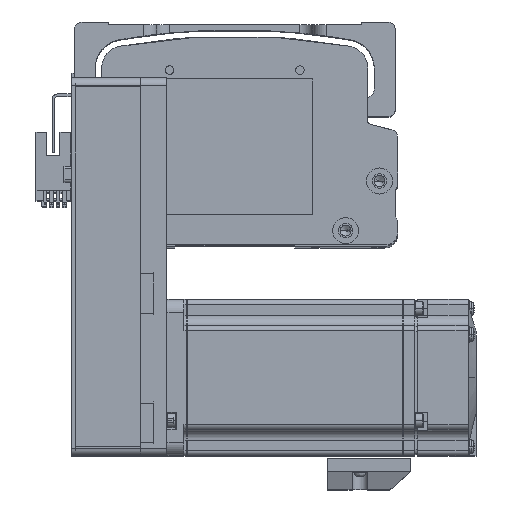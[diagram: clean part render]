
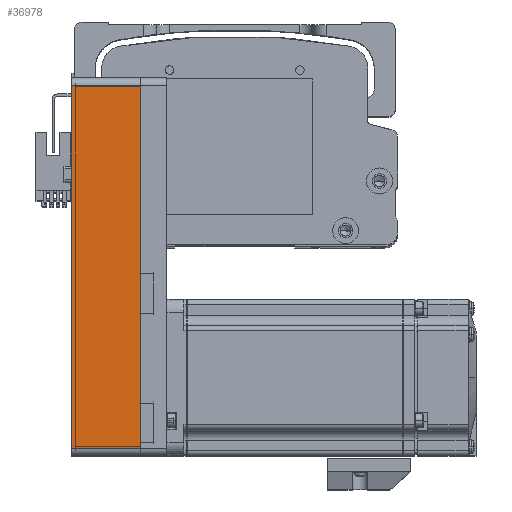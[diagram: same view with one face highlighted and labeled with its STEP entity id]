
A CAD part, top view. The second image highlights one B-rep face of the part: STEP entity #36978.
In plain terms, the highlighted planar face has unit normal (0, 0, 1) as drawn and (0, 1, 0) by its records, which use the part's own axes.
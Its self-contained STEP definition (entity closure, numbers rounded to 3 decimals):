
#1737 = CARTESIAN_POINT ( 'NONE',  ( 72.5, 30., 26.5 ) ) ;
#2294 = CARTESIAN_POINT ( 'NONE',  ( 69.5, 30., 0. ) ) ;
#8041 = VECTOR ( 'NONE', #57532, 1000. ) ;
#8072 = LINE ( 'NONE', #46622, #66247 ) ;
#8499 = VECTOR ( 'NONE', #67549, 1000. ) ;
#9425 = VERTEX_POINT ( 'NONE', #2294 ) ;
#10012 = LINE ( 'NONE', #19428, #57539 ) ;
#10837 = EDGE_CURVE ( 'NONE', #35597, #58328, #8072, .T. ) ;
#13459 = CARTESIAN_POINT ( 'NONE',  ( -69.5, 30., 0. ) ) ;
#15491 = DIRECTION ( 'NONE',  ( 0., 0., 1. ) ) ;
#15525 = VERTEX_POINT ( 'NONE', #24283 ) ;
#17304 = AXIS2_PLACEMENT_3D ( 'NONE', #59123, #21979, #65362 ) ;
#19428 = CARTESIAN_POINT ( 'NONE',  ( 69.5, 30., 26.5 ) ) ;
#20393 = EDGE_CURVE ( 'NONE', #15525, #58328, #57490, .T. ) ;
#21979 = DIRECTION ( 'NONE',  ( 0., -1., 0. ) ) ;
#24283 = CARTESIAN_POINT ( 'NONE',  ( 69.5, 30., 26.5 ) ) ;
#27771 = ORIENTED_EDGE ( 'NONE', *, *, #20393, .F. ) ;
#28488 = FACE_OUTER_BOUND ( 'NONE', #30672, .T. ) ;
#30672 = EDGE_LOOP ( 'NONE', ( #41353, #62289, #27771, #37447 ) ) ;
#34222 = PLANE ( 'NONE',  #17304 ) ;
#35597 = VERTEX_POINT ( 'NONE', #13459 ) ;
#36978 = ADVANCED_FACE ( 'NONE', ( #28488 ), #34222, .F. ) ;
#37447 = ORIENTED_EDGE ( 'NONE', *, *, #47105, .T. ) ;
#41353 = ORIENTED_EDGE ( 'NONE', *, *, #68784, .T. ) ;
#44380 = DIRECTION ( 'NONE',  ( 0., 0., -1. ) ) ;
#46622 = CARTESIAN_POINT ( 'NONE',  ( -69.5, 30., 26.5 ) ) ;
#47105 = EDGE_CURVE ( 'NONE', #15525, #9425, #10012, .T. ) ;
#57490 = LINE ( 'NONE', #1737, #8041 ) ;
#57532 = DIRECTION ( 'NONE',  ( -1., 0., 0. ) ) ;
#57539 = VECTOR ( 'NONE', #44380, 1000. ) ;
#58328 = VERTEX_POINT ( 'NONE', #69337 ) ;
#59123 = CARTESIAN_POINT ( 'NONE',  ( 72.5, 30., 26.5 ) ) ;
#61304 = CARTESIAN_POINT ( 'NONE',  ( 72.5, 30., 0. ) ) ;
#62289 = ORIENTED_EDGE ( 'NONE', *, *, #10837, .T. ) ;
#65362 = DIRECTION ( 'NONE',  ( 1., 0., 0. ) ) ;
#66247 = VECTOR ( 'NONE', #15491, 1000. ) ;
#67549 = DIRECTION ( 'NONE',  ( -1., 0., 0. ) ) ;
#68784 = EDGE_CURVE ( 'NONE', #9425, #35597, #74422, .T. ) ;
#69337 = CARTESIAN_POINT ( 'NONE',  ( -69.5, 30., 26.5 ) ) ;
#74422 = LINE ( 'NONE', #61304, #8499 ) ;
